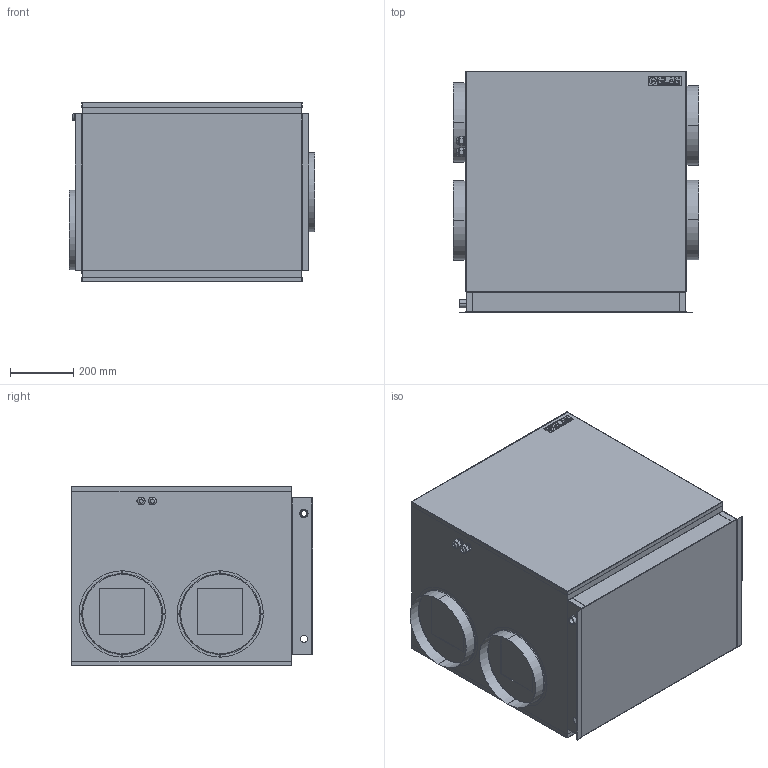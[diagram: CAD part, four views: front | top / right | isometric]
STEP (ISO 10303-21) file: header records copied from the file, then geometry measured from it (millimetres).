
FILE_DESCRIPTION (( 'STEP AP214' ), '1' );
FILE_NAME ('VPL25_28.STEP', '2018-05-24T10:14:29', ( '' ), ( '' ), 'SwSTEP 2.0', 'SolidWorks 2017', '' );
FILE_SCHEMA (( 'AUTOMOTIVE_DESIGN' ));
Length unit declared in the file: millimetre
Products named in the file (23): PGxx_ledningsaflastning_EMC; VPL25_fod; VPL25_for_bagplade; Nilan_merkat; VPL25_kasse; VPL25_28_250mm_rørstuds_muffemål; VPL25_fod_midt; 20mm_samlemuffe; VPL25_28; PGxx_ledningsaflastning_EMC_PG13,5
Assembly tree (14 placements, depth 2):
  PGxx_ledningsaflastning_EMC
  VPL25_fod
  VPL25_fod
  Nilan_merkat
  VPL25_28_250mm_rørstuds_muffemål
Bounding box: 780.2 x 765 x 571 mm (x, y, z)
Volume: 276403568.5 mm3; surface area: 6154610.9 mm2
Topology: 14 solids, 14 shells, 715 faces, 1701 edges, 1074 vertices
Faces by surface type: plane 437, cylinder 140, bspline 106, torus 20, cone 12
Entity records: 21080 total; most frequent: CARTESIAN_POINT 8096, ORIENTED_EDGE 2586, DIRECTION 2117, EDGE_CURVE 1293, VECTOR 951, LINE 951, VERTEX_POINT 830, EDGE_LOOP 605
